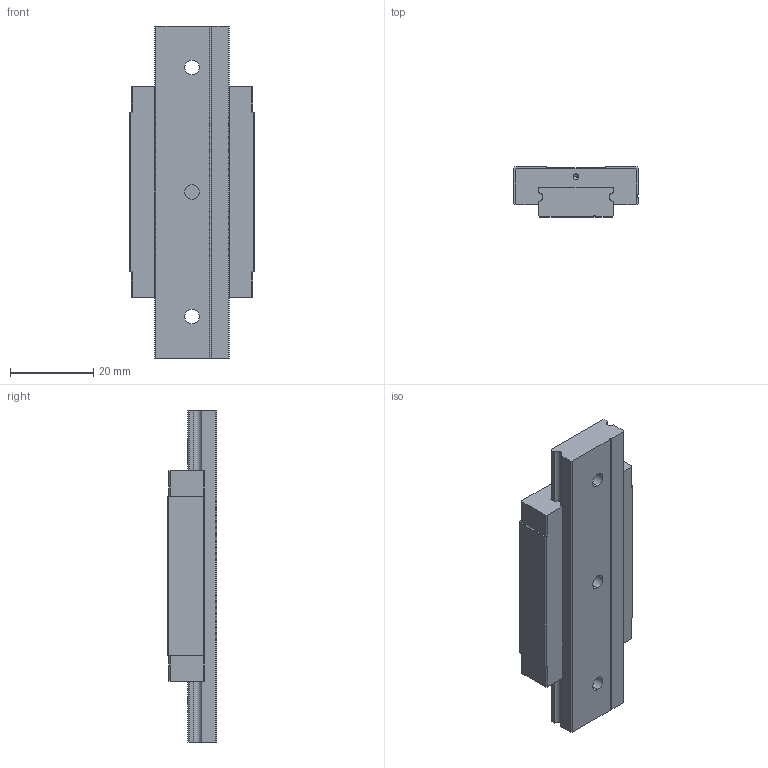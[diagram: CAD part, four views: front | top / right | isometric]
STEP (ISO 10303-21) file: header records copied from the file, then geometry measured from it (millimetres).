
FILE_DESCRIPTION((''),'2;1');
FILE_NAME('MGW9H_ASM','2008-07-11T',('minyao'),(''),'PRO/ENGINEER BY PARAMETRIC TECHNOLOGY CORPORATION, 2004360','PRO/ENGINEER BY PARAMETRIC TECHNOLOGY CORPORATION, 2004360','');
FILE_SCHEMA(('CONFIG_CONTROL_DESIGN'));
Length unit declared in the file: millimetre
Products named in the file (4): MANIFOLD_SOLID_BREP_411; MANIFOLD_SOLID_BREP_412; SAND94F7H8YC_ASM; MGW9H_ASM
Assembly tree (3 placements, depth 3):
  MGW9H_ASM
    SAND94F7H8YC_ASM
      MANIFOLD_SOLID_BREP_411
      MANIFOLD_SOLID_BREP_412
Bounding box: 30 x 12 x 80 mm (x, y, z)
Volume: 19118 mm3; surface area: 9701.2 mm2
Topology: 2 solids, 2 shells, 95 faces, 270 edges, 176 vertices
Faces by surface type: plane 53, cylinder 30, cone 12
Entity records: 3158 total; most frequent: DIRECTION 538, CARTESIAN_POINT 538, ORIENTED_EDGE 516, EDGE_CURVE 258, VECTOR 186, LINE 186, AXIS2_PLACEMENT_3D 176, VERTEX_POINT 176
